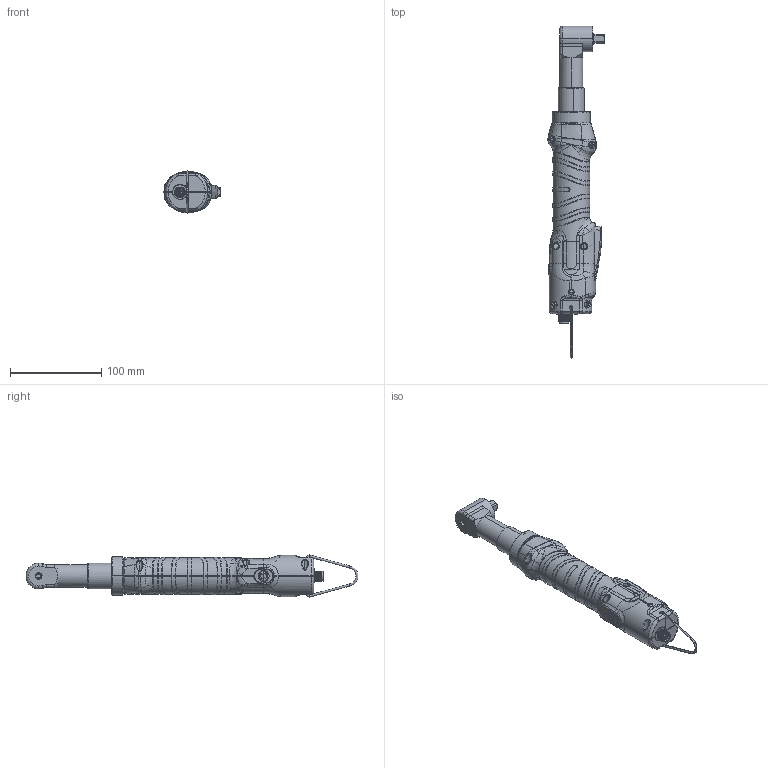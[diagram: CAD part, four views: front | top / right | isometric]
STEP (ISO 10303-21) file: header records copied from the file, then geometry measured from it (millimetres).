
FILE_DESCRIPTION (( 'STEP AP214' ), '1' );
FILE_NAME ('PLUTO 15ANG-TA 134216ANG-TA.STEP', '2024-01-26T09:49:29', ( '' ), ( '' ), 'SwSTEP 2.0', 'SolidWorks 2022', '' );
FILE_SCHEMA (( 'AUTOMOTIVE_DESIGN' ));
Length unit declared in the file: millimetre
Products named in the file (1): PLUTO 15ANG-TA 134216ANG-TA
Bounding box: 61.29 x 362.97 x 45.94 mm (x, y, z)
Surface area: 51687.7 mm2 (no closed solid volume)
Topology: 0 solids, 45 shells, 933 faces, 2876 edges, 1917 vertices
Faces by surface type: bspline 433, cylinder 241, plane 120, cone 102, torus 33, sphere 4
Entity records: 78528 total; most frequent: CARTESIAN_POINT 47382, ORIENTED_EDGE 4746, DIRECTION 3199, EDGE_CURVE 2850, VERTEX_POINT 1913, AXIS2_PLACEMENT_3D 1234, B_SPLINE_CURVE_WITH_KNOTS 1196, EDGE_LOOP 971
